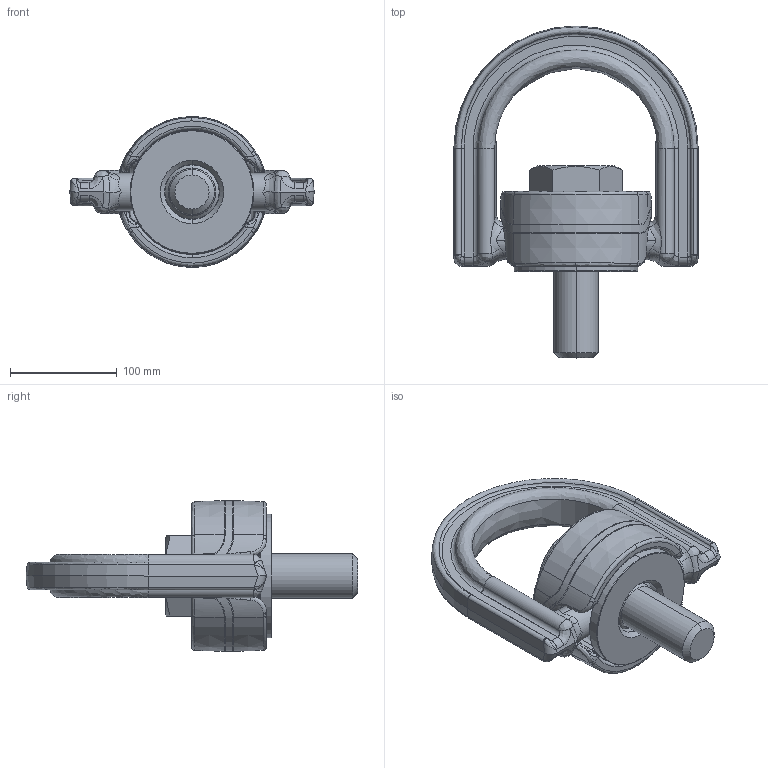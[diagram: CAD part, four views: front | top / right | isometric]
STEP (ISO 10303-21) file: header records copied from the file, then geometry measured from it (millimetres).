
FILE_DESCRIPTION (( 'STEP AP203' ), '1' );
FILE_NAME ('Z101742.step', '2016-04-04T11:15:36', ( '' ), ( '' ), 'SwSTEP 2.0', 'SolidWorks 2008', '' );
FILE_SCHEMA (( 'CONFIG_CONTROL_DESIGN' ));
Length unit declared in the file: millimetre
Products named in the file (6): Z101742; Z776044; Z768075; Z768030_SMITT; Z768661; Z7681242
Assembly tree (5 placements, depth 2):
  Z101742
    Z7681242
    Z768661
    Z768075
    Z776044
    Z768030_SMITT
Bounding box: 229 x 311.1 x 141.5 mm (x, y, z)
Volume: 1812072.2 mm3; surface area: 242900.3 mm2
Topology: 5 solids, 5 shells, 431 faces, 1026 edges, 598 vertices
Faces by surface type: bspline 248, cylinder 94, plane 59, cone 28, torus 2
Entity records: 35106 total; most frequent: CARTESIAN_POINT 26814, ORIENTED_EDGE 2024, DIRECTION 1012, EDGE_CURVE 1012, VERTEX_POINT 598, B_SPLINE_CURVE_WITH_KNOTS 517, EDGE_LOOP 442, ADVANCED_FACE 431
